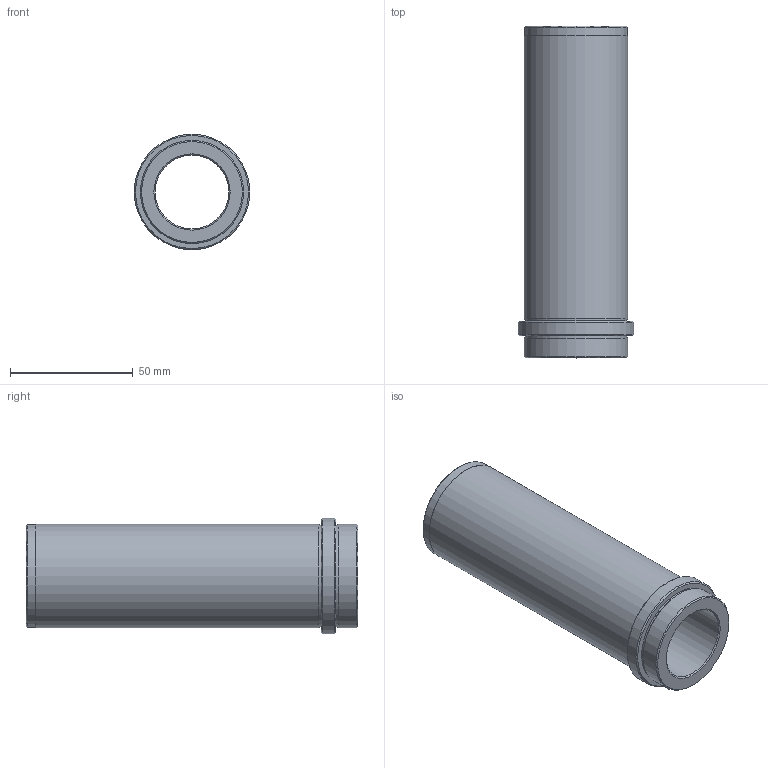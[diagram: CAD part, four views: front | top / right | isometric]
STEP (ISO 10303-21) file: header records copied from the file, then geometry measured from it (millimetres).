
FILE_DESCRIPTION( ( 'STEP AP203' ), '1' );
FILE_NAME( 'D:/Cuma/24 03 2009/D21/D21_30X126.step', '2002-12-31T22:08:56', ( ' ' ), ( ' ' ), 'XStep 1.0', ' ', ' ' );
FILE_SCHEMA( ( 'CONFIG_CONTROL_DESIGN' ) );
Length unit declared in the file: metre
Products named in the file (1): 1
Bounding box: 47 x 135 x 47 mm (x, y, z)
Volume: 93520.8 mm3; surface area: 32593.9 mm2
Topology: 1 solids, 1 shells, 20 faces, 33 edges, 20 vertices
Faces by surface type: cylinder 7, plane 7, cone 6
Full cylindrical faces by diameter (mm): 30 x1, 41.5 x2, 41.9 x1, 42 x2, 47 x1
Entity records: 453 total; most frequent: DIRECTION 82, CARTESIAN_POINT 61, AXIS2_PLACEMENT_3D 41, EDGE_LOOP 40, ORIENTED_EDGE 40, FACE_OUTER_BOUND 27, ADVANCED_FACE 20, EDGE_CURVE 20
